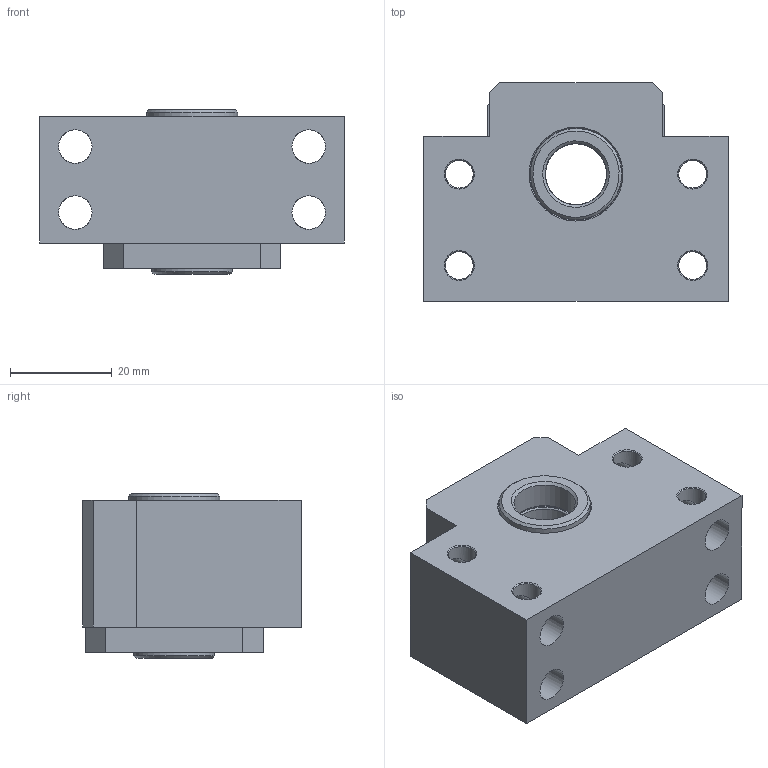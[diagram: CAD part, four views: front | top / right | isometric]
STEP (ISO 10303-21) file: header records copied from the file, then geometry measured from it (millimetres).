
FILE_DESCRIPTION(/* description */ (''),/* implementation_level */ '2;1');
FILE_NAME(/* name */ 'C:\Users\Nick_2\Dropbox\WG Projekte\Kamp und Kötter\Artikel\Fest- und Loslager BKBF\STEP-Dateien\BK12-Zusammenbau.stp',/* time_stamp */ '2015-05-17T23:45:45+02:00',/* author */ ('Nick_2'),/* organization */ (''),/* preprocessor_version */ 'ST-DEVELOPER v15.6',/* originating_system */ 'Autodesk Inventor 2015',/* authorisation */ '');
FILE_SCHEMA (('AUTOMOTIVE_DESIGN { 1 0 10303 214 3 1 1 }'));
Length unit declared in the file: millimetre
Products named in the file (8): BK12-Grundkörper; Rolling bearing 7001 C GB_T 292-94; Rolling bearing 7001 AC GB_T 292-94; BK12-Distanzring; BK12-Abdeckkappe; BK12-Dinstanzring-vorne; BK12-Dinstanzring-hinten; BK12-Zusammenbau
Assembly tree (7 placements, depth 2):
  BK12-Zusammenbau
    BK12-Grundkörper
    Rolling bearing 7001 C GB_T 292-94
    Rolling bearing 7001 AC GB_T 292-94
    BK12-Distanzring
    BK12-Abdeckkappe
    BK12-Dinstanzring-vorne
    BK12-Dinstanzring-hinten
Bounding box: 60 x 43 x 32.5 mm (x, y, z)
Volume: 48882.3 mm3; surface area: 26848.8 mm2
Topology: 25 solids, 25 shells, 193 faces, 446 edges, 282 vertices
Faces by surface type: cylinder 53, plane 47, torus 40, cone 37, sphere 16
Full cylindrical faces by diameter (mm): 3.242 x4, 4.8 x4, 5.5 x12, 6.6 x4, 7 x4, 10.8 x4, 12 x2, 12.1 x2, 15.9 x1, 16 x1, 17.216 x4, 18 x1, 18.1 x1, 22 x1, 22.784 x2, 24 x1, 28 x5
Entity records: 5554 total; most frequent: CARTESIAN_POINT 1396, DIRECTION 912, ORIENTED_EDGE 646, AXIS2_PLACEMENT_3D 429, EDGE_LOOP 376, EDGE_CURVE 291, VERTEX_POINT 241, CIRCLE 221
